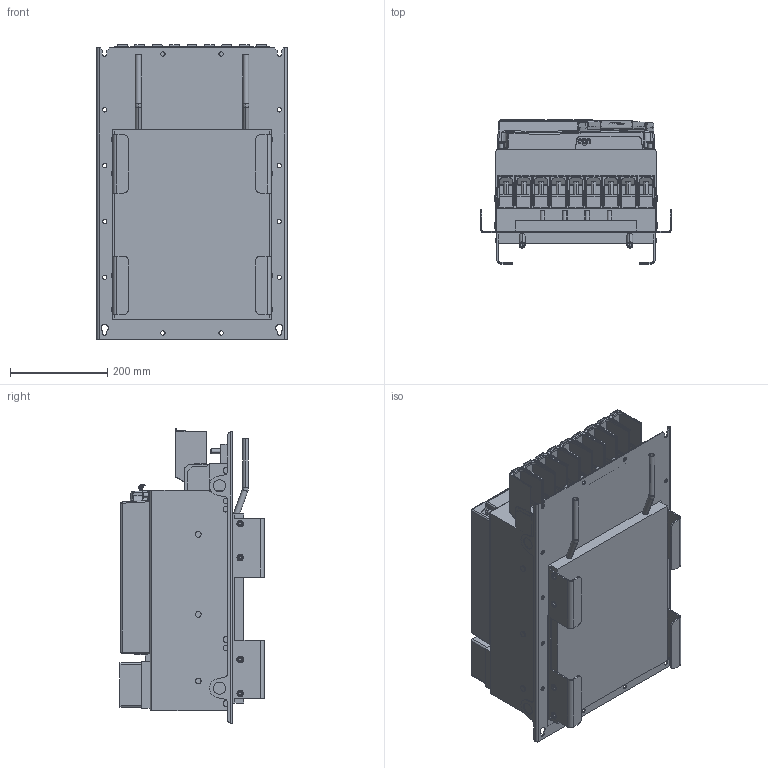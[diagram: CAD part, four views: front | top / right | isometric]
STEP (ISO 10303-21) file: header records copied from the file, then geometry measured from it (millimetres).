
FILE_DESCRIPTION (( 'STEP AP214' ), '1' );
FILE_NAME ('F6-7TW5-A010.STEP', '2021-03-02T13:30:56', ( '' ), ( '' ), 'SwSTEP 2.0', 'SolidWorks 2019', '' );
FILE_SCHEMA (( 'AUTOMOTIVE_DESIGN' ));
Length unit declared in the file: millimetre
Products named in the file (13): 10061502_000_Deckel (Kundenmodell); 10043622_000_70F6 Klemme (Kundenmodell); 10061522_000; F6-7TW5-A010; 10060970_000_Leistungsteil F6-7 TW5 (Kundenmodell); 10061503_000; 10044643_000_Kundenmodell; 10059765_000; 10059761_000; 10059764_000_Blindabdeckung (Kundenmodell); 10061504_000_Gehеsebaugruppe ohne L’terkarte; 10061523_000; 10045475_000_Geh„usebaugruppe F6-7 (Kundenmodell)
Assembly tree (12 placements, depth 4):
  F6-7TW5-A010
    10060970_000_Leistungsteil F6-7 TW5 (Kundenmodell)
      10043622_000_70F6 Klemme (Kundenmodell)
        10061522_000
      10061523_000
    10045475_000_Geh„usebaugruppe F6-7 (Kundenmodell)
      10061502_000_Deckel (Kundenmodell)
        10061503_000
      10061504_000_Gehеsebaugruppe ohne L’terkarte
    10044643_000_Kundenmodell
      10059764_000_Blindabdeckung (Kundenmodell)
        10059765_000
      10059761_000
Bounding box: 392 x 296.9 x 606.26 mm (x, y, z)
Volume: 40009177.5 mm3; surface area: 2111899.6 mm2
Topology: 12 solids, 13 shells, 3230 faces, 8229 edges, 5043 vertices
Faces by surface type: plane 1631, cylinder 980, bspline 278, sphere 172, torus 107, cone 62
Entity records: 103731 total; most frequent: CARTESIAN_POINT 27707, ORIENTED_EDGE 16236, DIRECTION 15047, EDGE_CURVE 8118, VECTOR 5163, LINE 5163, VERTEX_POINT 5040, AXIS2_PLACEMENT_3D 4942
